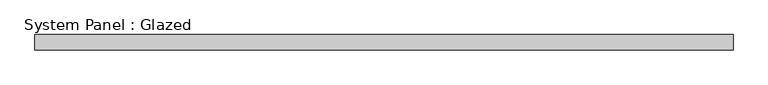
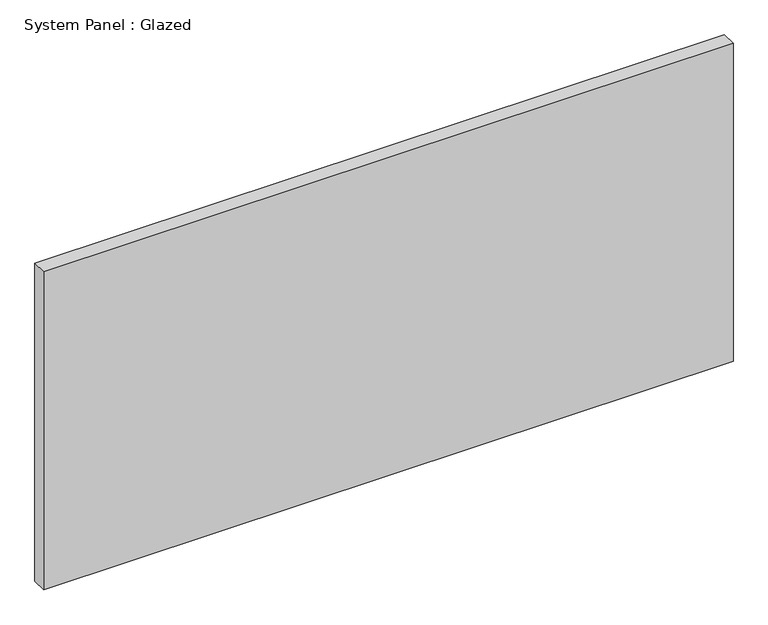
"""IFC4 building model written with IfcOpenShell, lengths in millimetres: plate geometry, System Panel : Glazed."""

from ifc_helpers import new_model, si_unit, origin, origin_with_axes, place, context, project, spatial, polyline, outline, extrude, source, transform, mapped, element, save


def system_panel_glazed_acb1330b(model_context):
    return source(origin(), model_context, "Body", "SweptSolid", [
        extrude(outline(polyline([(586.3065357, -44.45), (-586.3065357, -44.45), (-586.3065357, -19.05), (586.3065357, -19.05), (586.3065357, -44.45)])), origin_with_axes(), (0.0, 0.0, 1.0), 571.5),
    ])


if __name__ == "__main__":
    model = new_model("IFC4")
    model_context = context("Model", 3, world=origin())
    ifc_project = project(units=[si_unit("LENGTHUNIT", "METRE", prefix="MILLI")], contexts=[model_context])
    site = spatial("IfcSite", under=ifc_project)
    building = spatial("IfcBuilding", under=site)
    placement = place(None, origin())
    system_panel_glazed_shape = system_panel_glazed_acb1330b(model_context)
    element("IfcPlate", 1, ObjectType="System Panel : Glazed", at=placement, inside=building, context=model_context, shape_type="MappedRepresentation", body=[
        mapped(system_panel_glazed_shape, transform((0.0, 0.0, 0.0), x_axis=(1.0, 0.0, 0.0), y_axis=(0.0, 1.0, 0.0), z_axis=(0.0, 0.0, 1.0))),
    ])
    save(model, "model.ifc")
